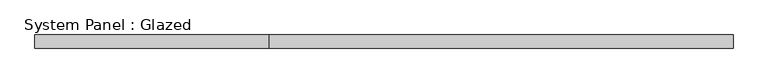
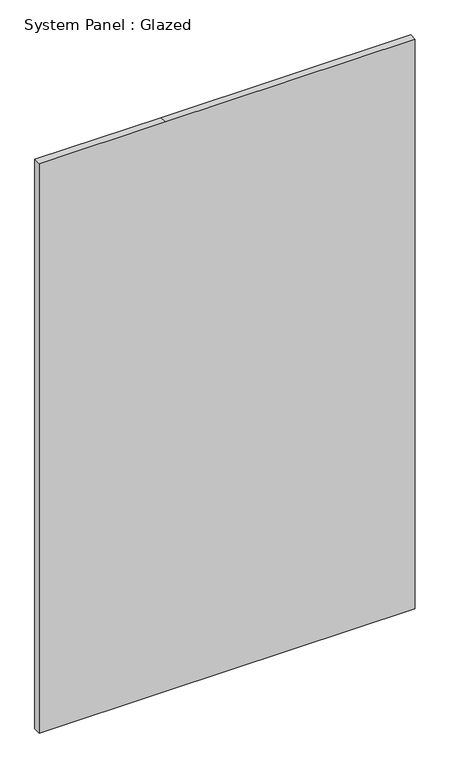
"""IFC4 building model written with IfcOpenShell, lengths in millimetres: plate geometry, System Panel : Glazed."""

from ifc_helpers import new_model, si_unit, frame, origin, place, context, project, spatial, polyline, outline, extrude, source, transform, mapped, element, save


def system_panel_glazed_7acc0e97(model_context):
    return source(origin(), model_context, "Body", "SweptSolid", [
        extrude(outline(polyline([(0.0, -643.17875), (0.0, -210.97875), (0.0, 643.17875), (2058.6, 643.17875), (2058.6, -210.97875), (2058.6, -643.17875), (0.0, -643.17875)])), frame((0.0, 24.5, 0.0), z_axis=(0.0, 1.0, 0.0), x_axis=(0.0, 0.0, 1.0)), (0.0, 0.0, 1.0), 25.0),
    ])


if __name__ == "__main__":
    model = new_model("IFC4")
    model_context = context("Model", 3, world=origin())
    ifc_project = project(units=[si_unit("LENGTHUNIT", "METRE", prefix="MILLI")], contexts=[model_context])
    site = spatial("IfcSite", under=ifc_project)
    building = spatial("IfcBuilding", under=site)
    placement = place(None, origin())
    system_panel_glazed_shape = system_panel_glazed_7acc0e97(model_context)
    element("IfcPlate", 1, ObjectType="System Panel : Glazed", at=placement, inside=building, context=model_context, shape_type="MappedRepresentation", body=[
        mapped(system_panel_glazed_shape, transform((0.0, 0.0, 0.0), x_axis=(1.0, 0.0, 0.0), y_axis=(0.0, 1.0, 0.0), z_axis=(0.0, 0.0, 1.0))),
    ])
    save(model, "model.ifc")
